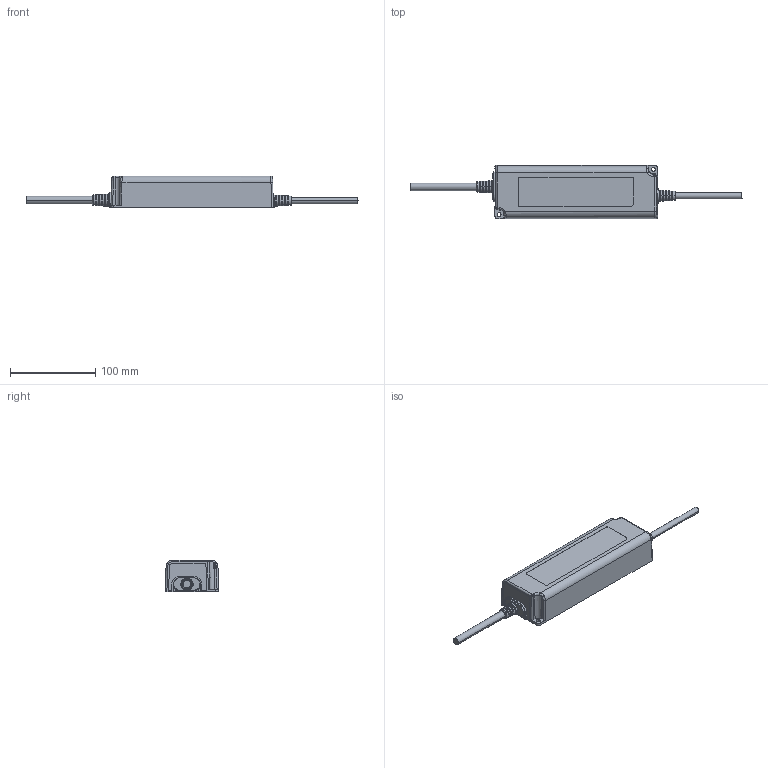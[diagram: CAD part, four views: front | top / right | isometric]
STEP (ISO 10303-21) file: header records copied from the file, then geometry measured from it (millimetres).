
FILE_DESCRIPTION(('Creo Elements/Direct Modeling STEP Export'),'2;1');
FILE_NAME('LPC-150.stp','2017-08-01T16:45:35',(''),(''),'PTC Creo Elements/Direct Modeling STEP processor for AP214 (Solid Model)','PTC Creo Elements/Direct Modeling 19.0 09-May-2014 (C) Parametric Technology GmbH','');
FILE_SCHEMA(('AUTOMOTIVE_DESIGN { 1 0 10303 214 1 1 1 1 }'));
Length unit declared in the file: millimetre
Products named in the file (12): HS1; HS2; a3; ÊU£\; a2; 60wƒ¼ˆO; a1.1; ÊW£\.1; PWM-90.1; LPF-80_1; LPC-150
Assembly tree (12 placements, depth 4):
  LPC-150
    a2
      a1.1
      LPF-80_1
    PWM-90.1
      ÊW£\.1
      a1.1
    60wƒ¼ˆO
      a2
        ÊU£\
      a3
      HS2
      HS1
Bounding box: 389.83 x 63.04 x 37.5 mm (x, y, z)
Volume: 98428 mm3; surface area: 89195.2 mm2
Topology: 1 solids, 2 shells, 685 faces, 1957 edges, 1270 vertices
Faces by surface type: plane 494, cylinder 137, cone 22, bspline 16, sphere 8, extrusion 4, torus 4
Entity records: 23022 total; most frequent: CARTESIAN_POINT 5572, ORIENTED_EDGE 3905, DIRECTION 3226, EDGE_CURVE 1949, VECTOR 1352, LINE 1348, VERTEX_POINT 1270, AXIS2_PLACEMENT_3D 937
